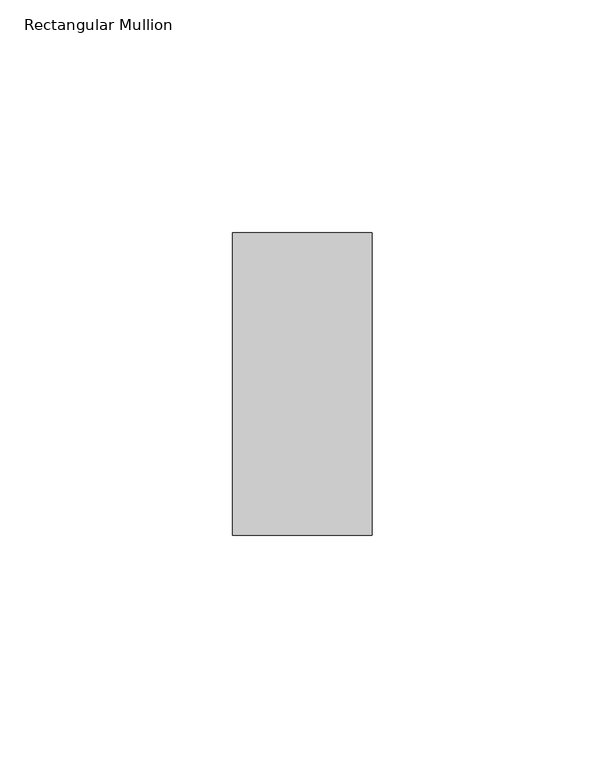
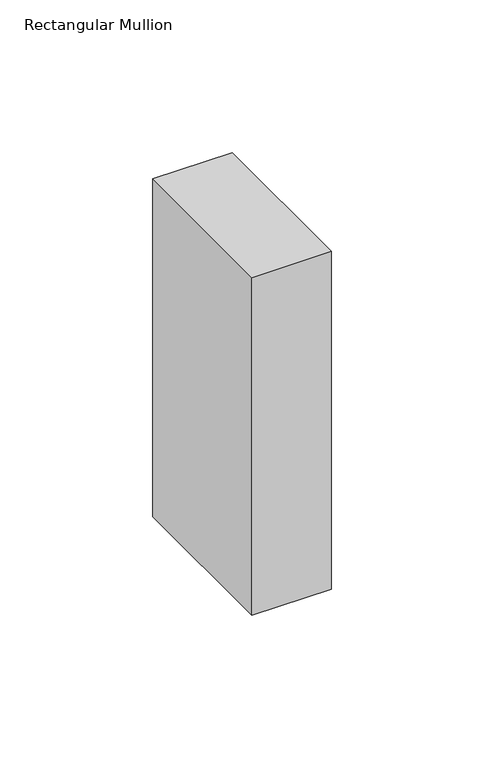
"""IFC4 building model written with IfcOpenShell, lengths in millimetres: member geometry, Rectangular Mullion : Batten_Timber_Modinex_Austratus_Grid_Fascia_30x65_AlaskanYellowCedar."""

import ifcopenshell
import ifcopenshell.guid

model = None  # the IFC model being written
_history = None  # IfcOwnerHistory: only IFC2X3 demands one
_inside = {}  # id of a spatial element -> (the spatial element, [elements in it])
_under = {}  # id of a project, library or spatial element -> (it, [spatial elements below it])
_declared = {}  # id of a project -> (the project, [libraries it declares])
_typed = {}  # id of a type object -> (the type object, [elements of that type])
_made_of = {}  # id of a material, layer set ... -> (it, [elements and type objects made of it])


def new_model(schema):
    """Start an empty IFC model of exactly this schema.

    Asked for "IFC4X3", IfcOpenShell would pick the latest addendum, in which some entities
    have other attributes; the version numbers below select the first issue.
    IFC2X3 requires an IfcOwnerHistory on every rooted entity: one is made here for all.
    """
    global model, _history
    if schema == "IFC4X3":
        model = ifcopenshell.file(schema_version=(4, 3, 0, 0))
    else:
        model = ifcopenshell.file(schema=schema)
    _inside.clear()
    _under.clear()
    _declared.clear()
    _typed.clear()
    _made_of.clear()
    _history = None
    if model.schema == "IFC2X3":
        org = make("IfcOrganization", Name="unknown")
        user = make(
            "IfcPersonAndOrganization",
            ThePerson=make("IfcPerson", FamilyName="unknown"),
            TheOrganization=org,
        )
        app = make(
            "IfcApplication",
            ApplicationDeveloper=org,
            Version="unknown",
            ApplicationFullName="unknown",
            ApplicationIdentifier="unknown",
        )
        _history = make(
            "IfcOwnerHistory",
            OwningUser=user,
            OwningApplication=app,
            ChangeAction="ADDED",
            CreationDate=0,
        )
    return model


def make(cls, **values):
    """One entity of the class cls with the attributes given. An attribute that is None is left unset."""
    return model.create_entity(
        cls, **{name: value for name, value in values.items() if value is not None}
    )


def rooted(cls, **values):
    """An entity with a GlobalId (a new one), such as an element, a storey or a relation."""
    return make(cls, GlobalId=ifcopenshell.guid.new(), OwnerHistory=_history, **values)


def si_unit(unit_type, name, prefix=None):
    """IfcSIUnit, for example si_unit("LENGTHUNIT", "METRE", prefix="MILLI")."""
    return make("IfcSIUnit", UnitType=unit_type, Prefix=prefix, Name=name)


def assignment(units):
    """IfcUnitAssignment: the units of a project."""
    return None if units is None else make("IfcUnitAssignment", Units=units)


def point(xyz):
    """IfcCartesianPoint."""
    return None if xyz is None else make("IfcCartesianPoint", Coordinates=xyz)


def direction(xyz):
    """IfcDirection."""
    return None if xyz is None else make("IfcDirection", DirectionRatios=xyz)


def frame(location, z_axis=None, x_axis=None):
    """IfcAxis2Placement3D, a coordinate frame: its origin and axes. An axis left out is left unset."""
    return make(
        "IfcAxis2Placement3D",
        Location=point(location),
        Axis=direction(z_axis),
        RefDirection=direction(x_axis),
    )


def origin():
    """The frame at (0, 0, 0) with its axes left unset."""
    return frame((0.0, 0.0, 0.0))


def place(relative_to, where):
    """IfcLocalPlacement: puts the frame where relative to a parent placement (None: the world)."""
    return make(
        "IfcLocalPlacement", PlacementRelTo=relative_to, RelativePlacement=where
    )


def context(
    kind, dimensions, precision=None, world=None, true_north=None, identifier=None
):
    """IfcGeometricRepresentationContext, for example the 3D "Model" context."""
    return make(
        "IfcGeometricRepresentationContext",
        ContextIdentifier=identifier,
        ContextType=kind,
        CoordinateSpaceDimension=dimensions,
        Precision=precision,
        WorldCoordinateSystem=world,
        TrueNorth=true_north,
    )


def project(units=None, contexts=None):
    """IfcProject with its units and contexts."""
    return rooted(
        "IfcProject",
        Name="project",
        RepresentationContexts=contexts,
        UnitsInContext=assignment(units),
    )


def spatial(cls, under=None, at=None, **own):
    """A site, building, storey or space (cls), placed at a placement, below another one or the project."""
    s = rooted(cls, ObjectPlacement=at, **own)
    if under is not None:
        _under.setdefault(under.id(), (under, []))[1].append(s)
    return s


def polyline(points):
    """IfcPolyline through the points."""
    return make("IfcPolyline", Points=[point(p) for p in points])


def outline(outer, holes=None, kind="AREA"):
    """IfcArbitraryClosedProfileDef: a profile drawn as a closed curve; with holes, ...WithVoids."""
    if holes is None:
        return make("IfcArbitraryClosedProfileDef", ProfileType=kind, OuterCurve=outer)
    return make(
        "IfcArbitraryProfileDefWithVoids",
        ProfileType=kind,
        OuterCurve=outer,
        InnerCurves=holes,
    )


def extrude(swept, where, along, depth):
    """IfcExtrudedAreaSolid: the profile swept, set in the frame where, extruded along a direction by depth."""
    return make(
        "IfcExtrudedAreaSolid",
        SweptArea=swept,
        Position=where,
        ExtrudedDirection=direction(along),
        Depth=depth,
    )


def shape(context_of_items, identifier, shape_type, items):
    """IfcShapeRepresentation: the items that make up one representation, for example the "Body"."""
    return make(
        "IfcShapeRepresentation",
        ContextOfItems=context_of_items,
        RepresentationIdentifier=identifier,
        RepresentationType=shape_type,
        Items=items,
    )


def source(mapping_origin, context_of_items, identifier, shape_type, items):
    """IfcRepresentationMap: a shape defined once, which mapped items show again and again."""
    return make(
        "IfcRepresentationMap",
        MappingOrigin=mapping_origin,
        MappedRepresentation=shape(context_of_items, identifier, shape_type, items),
    )


def transform(
    local_origin,
    x_axis=None,
    y_axis=None,
    z_axis=None,
    scale=None,
    scale2=None,
    scale3=None,
    uniform=True,
):
    """IfcCartesianTransformationOperator3D, or its non-uniform kind. x_axis, y_axis, z_axis: its Axis1, 2, 3."""
    if uniform:
        return make(
            "IfcCartesianTransformationOperator3D",
            Axis1=direction(x_axis),
            Axis2=direction(y_axis),
            LocalOrigin=point(local_origin),
            Scale=scale,
            Axis3=direction(z_axis),
        )
    return make(
        "IfcCartesianTransformationOperator3DnonUniform",
        Axis1=direction(x_axis),
        Axis2=direction(y_axis),
        LocalOrigin=point(local_origin),
        Scale=scale,
        Axis3=direction(z_axis),
        Scale2=scale2,
        Scale3=scale3,
    )


def mapped(mapping_source, mapping_target):
    """IfcMappedItem: shows the shape of a source again, moved by a transform."""
    return make(
        "IfcMappedItem", MappingSource=mapping_source, MappingTarget=mapping_target
    )


def made_of(thing, what):
    """Note that an element or type object is made of a material, layer set ...; save() writes the relation."""
    if what is not None:
        _made_of.setdefault(what.id(), (what, []))[1].append(thing)
    return thing


def element(
    cls,
    number,
    at=None,
    inside=None,
    cuts=None,
    type_object=None,
    material=None,
    context=None,
    identifier="Body",
    shape_type=None,
    held_by="IfcProductDefinitionShape",
    body=None,
    shapes=None,
    **own,
):
    """One element of the class cls, such as IfcWall. Its Tag is "e" and its number.

    at: its placement. inside: the storey or other place that contains it. cuts: it is an
    opening in that element (IfcRelVoidsElement). A single representation is given by context,
    identifier, shape_type and body (its items); several are given by shapes. held_by: the class
    of the entity that holds the representations. save() writes the other relations.
    """
    e = rooted(cls, Tag="e%d" % number, ObjectPlacement=at, **own)
    if body is not None:
        shapes = [shape(context, identifier, shape_type, body)]
    if shapes is not None:
        e.Representation = make(held_by, Representations=shapes)
    if inside is not None:
        _inside.setdefault(inside.id(), (inside, []))[1].append(e)
    if cuts is not None:
        rooted(
            "IfcRelVoidsElement", RelatingBuildingElement=cuts, RelatedOpeningElement=e
        )
    if type_object is not None:
        _typed.setdefault(type_object.id(), (type_object, []))[1].append(e)
    return made_of(e, material)


def aggregate(whole, parts):
    """IfcRelAggregates: a whole, such as a stair, and the parts it consists of."""
    return rooted("IfcRelAggregates", RelatingObject=whole, RelatedObjects=parts)


def save(model, path):
    """Write the relations noted so far, then the file.

    IfcRelAggregates (storeys below a building ...), IfcRelContainedInSpatialStructure (elements
    in a storey), IfcRelDefinesByType, IfcRelAssociatesMaterial and IfcRelDeclares: one each for
    every whole, place, type object, material and project.
    """
    for whole, parts in _under.values():
        aggregate(whole, parts)
    for where, things in _inside.values():
        rooted(
            "IfcRelContainedInSpatialStructure",
            RelatedElements=things,
            RelatingStructure=where,
        )
    for kind, things in _typed.values():
        rooted("IfcRelDefinesByType", RelatedObjects=things, RelatingType=kind)
    for what, things in _made_of.values():
        rooted("IfcRelAssociatesMaterial", RelatedObjects=things, RelatingMaterial=what)
    for by, libraries in _declared.values():
        rooted("IfcRelDeclares", RelatingContext=by, RelatedDefinitions=libraries)
    model.write(path)


def rectangular_mullion_bdd805c5(model_context):
    return source(origin(), model_context, "Body", "SweptSolid", [
        extrude(outline(polyline([(-30.0, 65.0), (0.0, 65.0), (0.0, 0.0), (-30.0, 0.0), (-30.0, 65.0)])), frame((0.0, 0.0, -135.0000003), z_axis=(0.0, 0.0, 1.0), x_axis=(1.0, 0.0, 0.0)), (0.0, 0.0, 1.0), 135.0000003),
    ])


if __name__ == "__main__":
    model = new_model("IFC4")
    model_context = context("Model", 3, world=origin())
    ifc_project = project(units=[si_unit("LENGTHUNIT", "METRE", prefix="MILLI")], contexts=[model_context])
    site = spatial("IfcSite", under=ifc_project)
    building = spatial("IfcBuilding", under=site)
    placement = place(None, origin())
    rectangular_mullion_shape = rectangular_mullion_bdd805c5(model_context)
    element("IfcMember", 1, ObjectType="Rectangular Mullion : Batten_Timber_Modinex_Austratus_Grid_Fascia_30x65_AlaskanYellowCedar", at=placement, inside=building, context=model_context, shape_type="MappedRepresentation", body=[
        mapped(rectangular_mullion_shape, transform((0.0, 0.0, 0.0), x_axis=(1.0, 0.0, 0.0), y_axis=(0.0, 1.0, 0.0), z_axis=(0.0, 0.0, 1.0))),
    ])
    save(model, "model.ifc")
